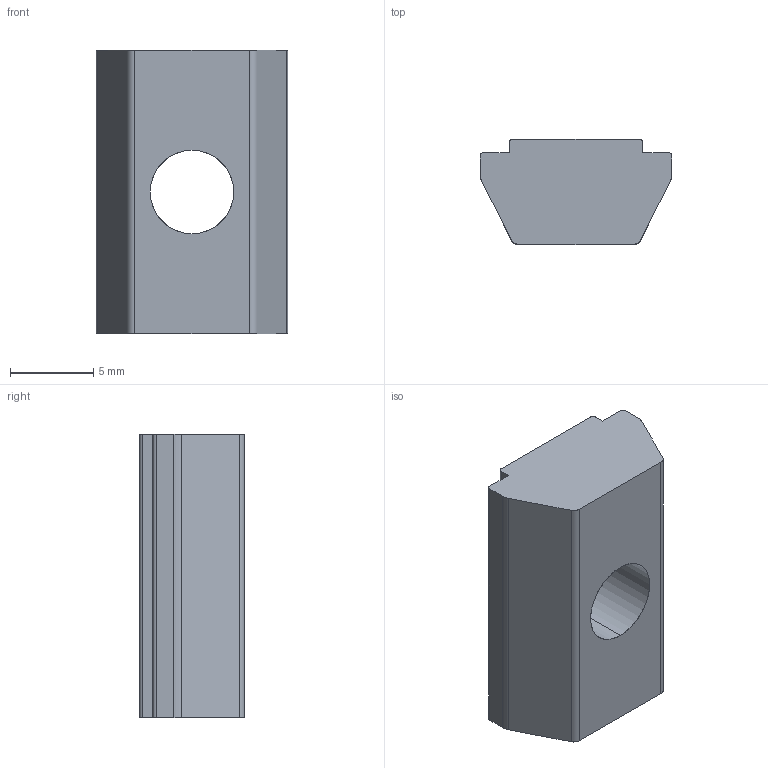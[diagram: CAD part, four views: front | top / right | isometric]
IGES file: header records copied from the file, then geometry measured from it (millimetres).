
Start section: SolidWorks IGES file using analytic representation for surfaces
Global section: file name: C:\Documents and Settings\Administrator\デスクトップ\指定保存後3回目\SolidWorks\SF\SF30\Nut\SFB-616.IGS; native system: SolidWorks 2006 by SolidWorks Corporation; preprocessor: SolidWorks 2006 by SolidWorks Corporation; author: Administrator; date: 061213.101753; units: millimetre
Bounding box: 11.5 x 6.3 x 17 mm (x, y, z)
Surface area: 727.8 mm2 (no closed solid volume)
Topology: 0 solids, 0 shells, 22 faces, 280 edges, 340 vertices
Faces by surface type: bspline 12, revolution 10
